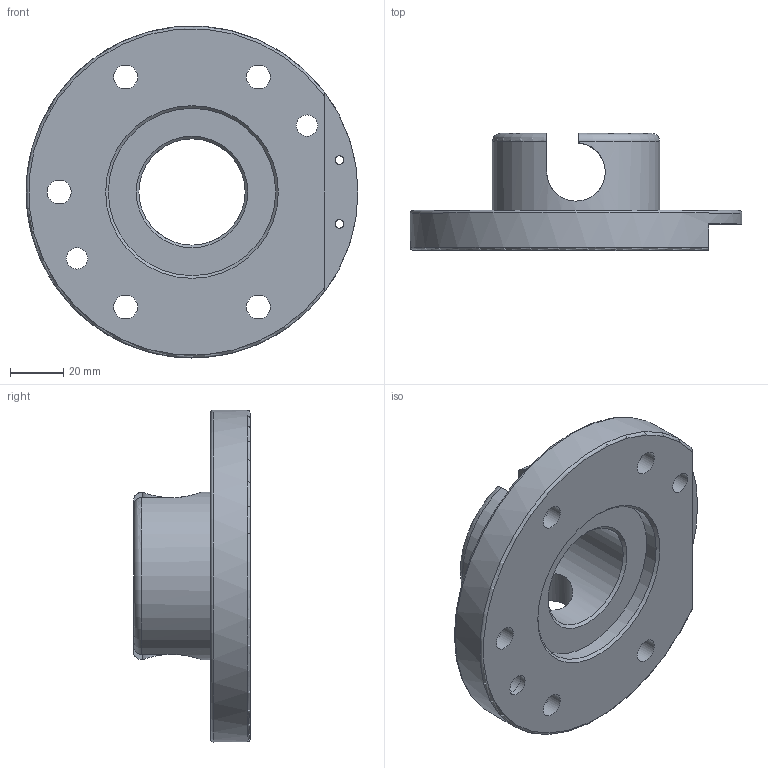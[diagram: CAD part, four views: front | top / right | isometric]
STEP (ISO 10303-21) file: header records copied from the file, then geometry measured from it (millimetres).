
FILE_DESCRIPTION(/* description */ (''),/* implementation_level */ '2;1');
FILE_NAME(/* name */ '\\dc01\daten\CAD\Standard\Daten\3D-Datenbank\Webseite 2020\SWS\125\G-MGW125-2UES.stp',/* time_stamp */ '2020-05-05T13:21:03+02:00',/* author */ ('ysplieth'),/* organization */ (''),/* preprocessor_version */ 'ST-DEVELOPER v17',/* originating_system */ 'Autodesk Inventor 2018',/* authorisation */ '');
FILE_SCHEMA (('AUTOMOTIVE_DESIGN { 1 0 10303 214 3 1 1 }'));
Length unit declared in the file: millimetre
Products named in the file (1): G-MGW125-2UE
Bounding box: 125 x 44 x 125 mm (x, y, z)
Volume: 178563.8 mm3; surface area: 41342.3 mm2
Topology: 1 solids, 1 shells, 47 faces, 133 edges, 94 vertices
Faces by surface type: cylinder 21, plane 16, cone 6, torus 4
Full cylindrical faces by diameter (mm): 3.242 x2, 8 x2, 9 x5, 10.1 x1, 15 x5, 40 x1, 63 x2, 125 x1
Entity records: 1870 total; most frequent: CARTESIAN_POINT 453, DIRECTION 291, ORIENTED_EDGE 266, EDGE_CURVE 133, AXIS2_PLACEMENT_3D 124, VERTEX_POINT 94, CIRCLE 76, EDGE_LOOP 73
